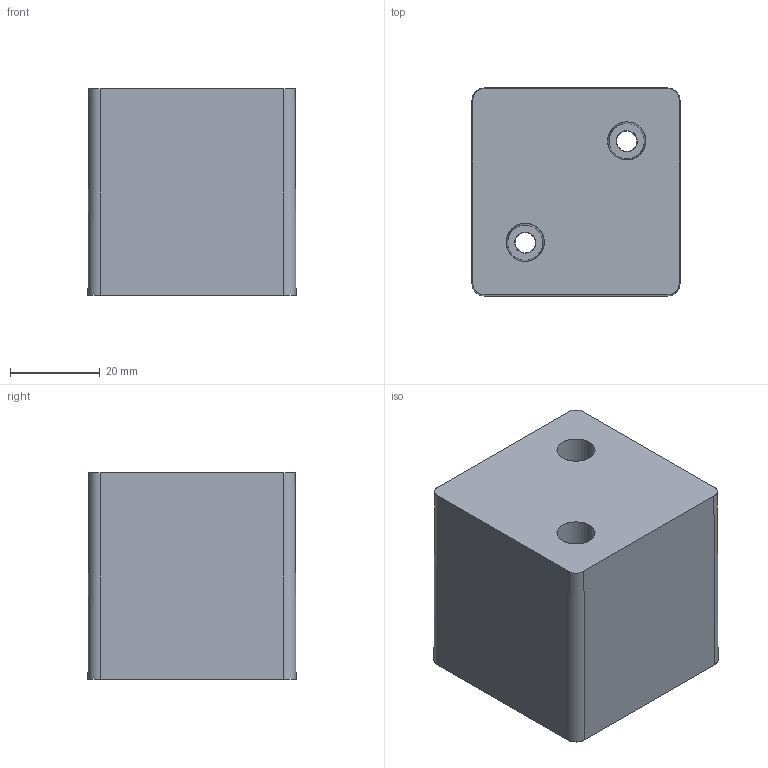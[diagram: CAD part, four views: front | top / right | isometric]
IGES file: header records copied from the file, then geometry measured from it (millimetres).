
Start section: Comment
Global section: file name: 8022.igs; native system: Parasolid(12.0); preprocessor: Pariges 4.4; author: Author; organization: Title; date: 20210511.090023; units: millimetre
Bounding box: 46.4 x 46.4 x 46 mm (x, y, z)
Surface area: 25050.4 mm2 (no closed solid volume)
Topology: 0 solids, 0 shells, 41 faces, 456 edges, 456 vertices
Faces by surface type: revolution 24, extrusion 17
